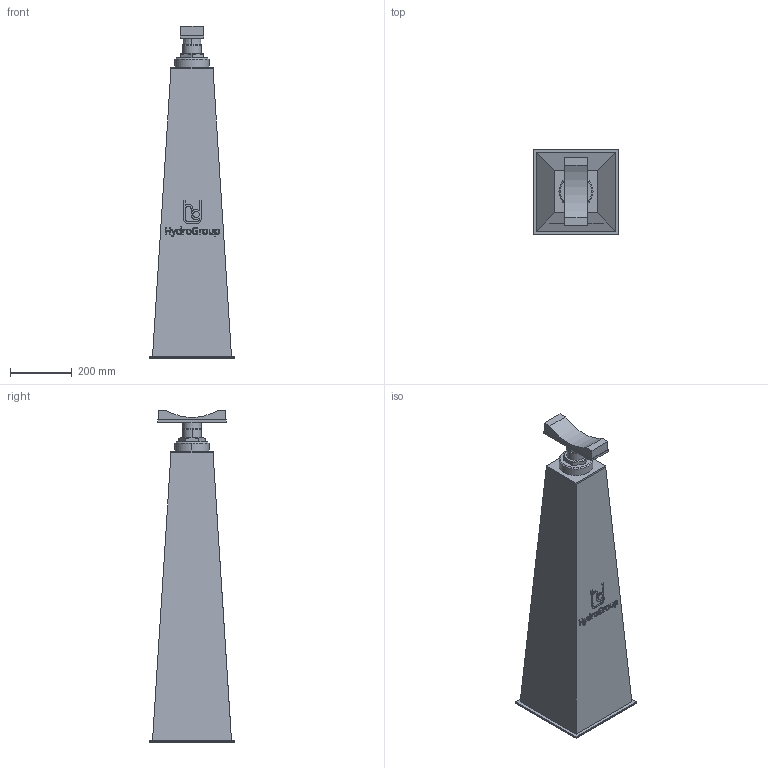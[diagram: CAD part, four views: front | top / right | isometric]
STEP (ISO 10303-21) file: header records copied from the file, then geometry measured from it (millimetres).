
FILE_DESCRIPTION(('STEP AP214'),'1');
FILE_NAME('RSRFE-III_DN300.stp','2018-06-28T11:43:08',(' '),(' '),'Spatial InterOp 3D',' ',' ');
FILE_SCHEMA(('automotive_design'));
Length unit declared in the file: millimetre
Products named in the file (6): 1; 2; 3; 4; 5; 6
Bounding box: 276.01 x 276.01 x 1074 mm (x, y, z)
Volume: 38819377.3 mm3; surface area: 1172426.9 mm2
Topology: 6 solids, 6 shells, 222 faces, 548 edges, 357 vertices
Faces by surface type: plane 144, cylinder 30, extrusion 24, cone 20, torus 4
Entity records: 8944 total; most frequent: CARTESIAN_POINT 1807, ORIENTED_EDGE 1096, DIRECTION 1011, EDGE_CURVE 548, VECTOR 421, LINE 397, VERTEX_POINT 357, AXIS2_PLACEMENT_3D 295
